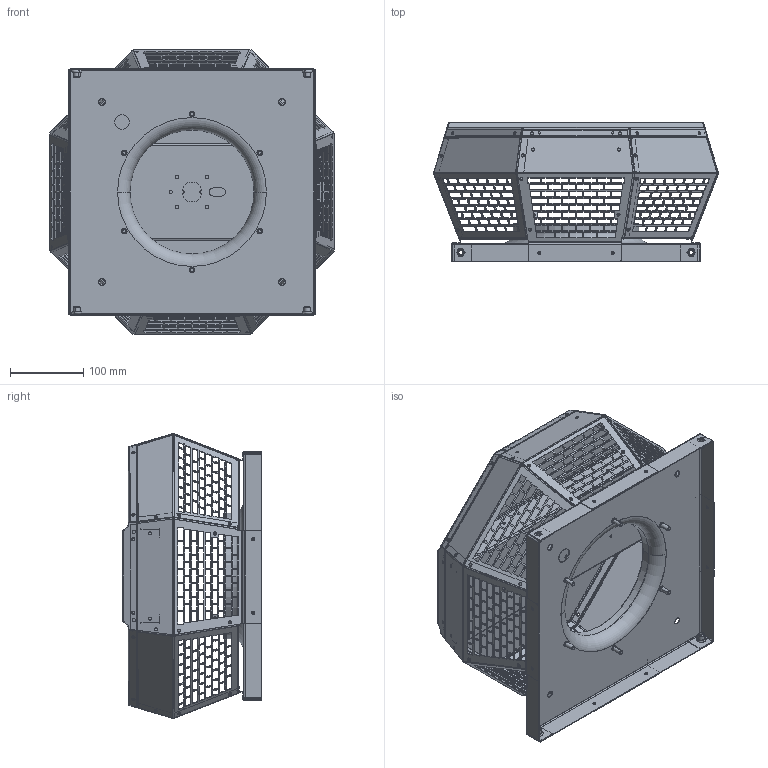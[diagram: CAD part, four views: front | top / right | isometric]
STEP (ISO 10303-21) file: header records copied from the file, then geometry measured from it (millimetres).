
FILE_DESCRIPTION (( 'STEP AP203' ), '1' );
FILE_NAME ('130447-00_DHA250E4P30.STEP', '2015-02-23T08:53:12', ( '' ), ( '' ), 'SwSTEP 2.0', 'SolidWorks 2012', '' );
FILE_SCHEMA (( 'CONFIG_CONTROL_DESIGN' ));
Products named in the file (1): 130447-00_DHA250E4P30
Bounding box: 388.18 x 190.21 x 388.18 mm (x, y, z)
Surface area: 985858.7 mm2 (no closed solid volume)
Topology: 0 solids, 37 shells, 2415 faces, 8162 edges, 5498 vertices
Faces by surface type: plane 1872, cylinder 447, bspline 44, torus 32, cone 20
Entity records: 89831 total; most frequent: CARTESIAN_POINT 17887, ORIENTED_EDGE 14179, DIRECTION 13577, EDGE_CURVE 8162, LINE 6873, VECTOR 6873, VERTEX_POINT 5498, EDGE_LOOP 3597
